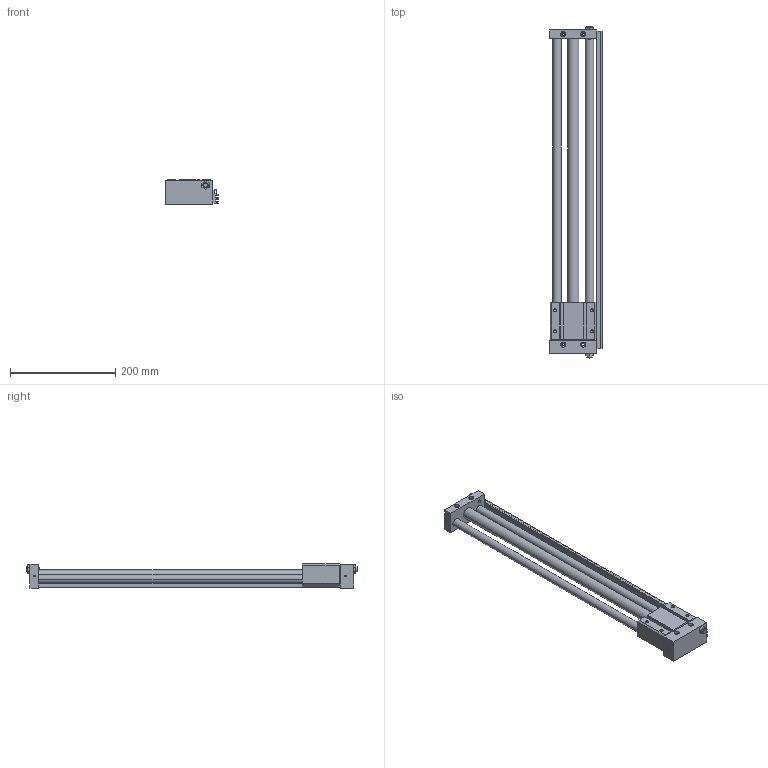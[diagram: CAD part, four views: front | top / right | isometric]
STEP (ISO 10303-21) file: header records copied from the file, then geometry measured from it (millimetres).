
FILE_DESCRIPTION((''),'2;1');
FILE_NAME('C:\Documents and Settings\Administrator\桌面\GYS\GYS20\GYSR20X500.stp','2012-03-06T20:21:00',('Administrator'),(''),'Autodesk Inventor 8','Autodesk Inventor 8','');
FILE_SCHEMA(('AUTOMOTIVE_DESIGN { 1 0 10303 214 1 1 1 1 }'));
Length unit declared in the file: millimetre
Products named in the file (3): GYSR20X500; GYS20X500; GYS20160X500
Assembly tree (2 placements, depth 2):
  GYSR20X500
    GYS20X500
    GYS20160X500
Bounding box: 100.5 x 631 x 46 mm (x, y, z)
Volume: 896656.7 mm3; surface area: 211099.6 mm2
Topology: 2 solids, 2 shells, 243 faces, 626 edges, 408 vertices
Faces by surface type: plane 133, cylinder 76, cone 28, bspline 6
Entity records: 7564 total; most frequent: CARTESIAN_POINT 1356, DIRECTION 1306, ORIENTED_EDGE 1252, EDGE_CURVE 626, AXIS2_PLACEMENT_3D 438, VECTOR 430, LINE 430, VERTEX_POINT 408
